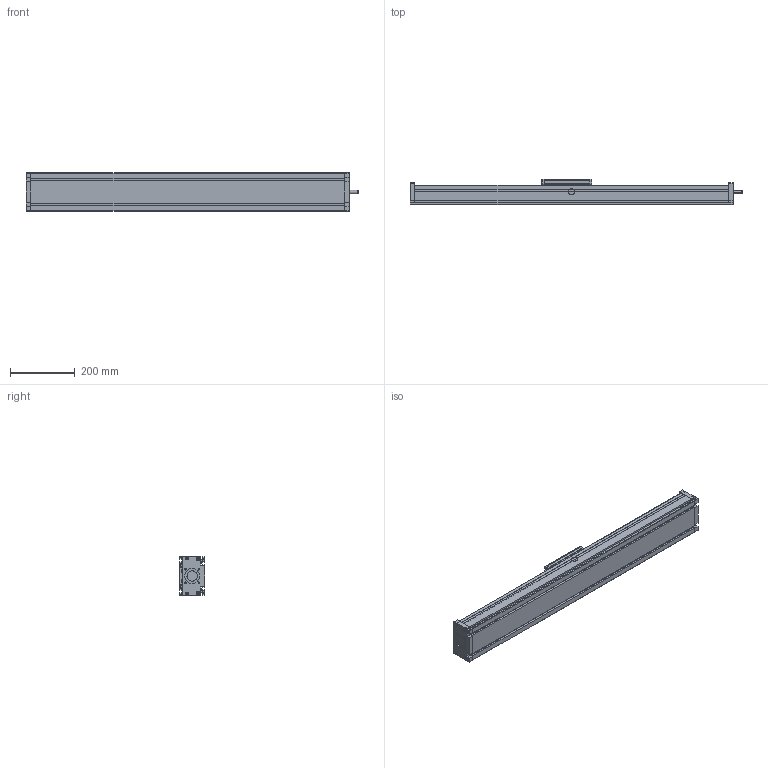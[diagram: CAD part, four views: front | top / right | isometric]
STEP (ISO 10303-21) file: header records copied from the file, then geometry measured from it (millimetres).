
FILE_DESCRIPTION (( 'STEP AP214' ), '1' );
FILE_NAME ('DSTK-120.STEP', '2016-01-14T09:36:16', ( 'admin' ), ( '' ), 'SwSTEP 2.0', 'SolidWorks 2015', '' );
FILE_SCHEMA (( 'AUTOMOTIVE_DESIGN' ));
Length unit declared in the file: millimetre
Products named in the file (5): Kopie von Bahr-DST-DSK-DST-120   1  0  0 0  0 0 0  700_DSTK Extrusion 120^DST(K)120 S0 A0; Kopie von Bahr-DST-DSK-DST-120   1  0  0 0  0 0 0  700_DSTK End Plate 120 (B)^DST(K)120 S0 A0_0; Kopie von Bahr-DST-DSK-DST-120   1  0  0 0  0 0 0  700_DSTK Carriage 120^DST(K)120 S0 A0_0; Kopie von Bahr-DST-DSK-DST-120   1  0  0 0  0 0 0  700_DSTK End Plate 120 (A)^DST(K)120 S0 A0_1; DSTK-120
Assembly tree (4 placements, depth 2):
  DSTK-120
    Kopie von Bahr-DST-DSK-DST-120   1  0  0 0  0 0 0  700_DSTK End Plate 120 (A)^DST(K)120 S0 A0_1
    Kopie von Bahr-DST-DSK-DST-120   1  0  0 0  0 0 0  700_DSTK Carriage 120^DST(K)120 S0 A0_0
    Kopie von Bahr-DST-DSK-DST-120   1  0  0 0  0 0 0  700_DSTK End Plate 120 (B)^DST(K)120 S0 A0_0
    Kopie von Bahr-DST-DSK-DST-120   1  0  0 0  0 0 0  700_DSTK Extrusion 120^DST(K)120 S0 A0
Bounding box: 1027 x 79 x 120.2 mm (x, y, z)
Volume: 7035238.2 mm3; surface area: 617613.5 mm2
Topology: 8 solids, 8 shells, 577 faces, 1509 edges, 986 vertices
Faces by surface type: plane 377, cylinder 169, cone 23, bspline 8
Entity records: 18805 total; most frequent: CARTESIAN_POINT 3702, ORIENTED_EDGE 3002, DIRECTION 2970, EDGE_CURVE 1501, LINE 1114, VECTOR 1114, VERTEX_POINT 986, AXIS2_PLACEMENT_3D 928
